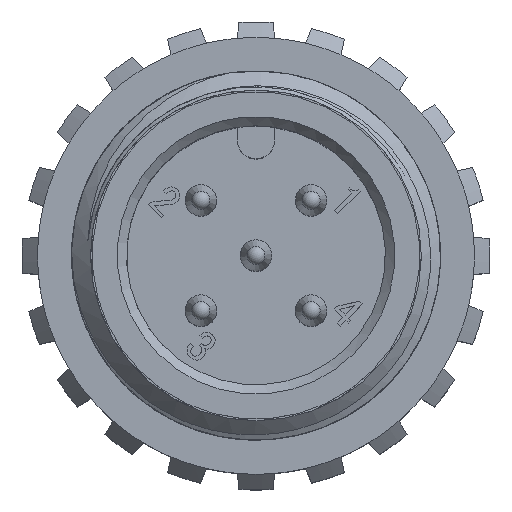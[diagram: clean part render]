
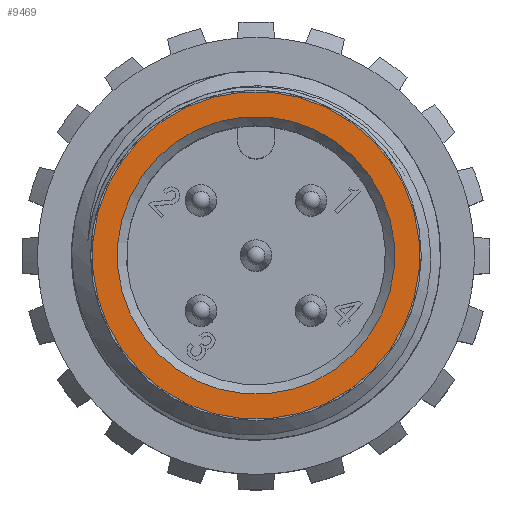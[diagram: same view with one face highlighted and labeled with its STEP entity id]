
A CAD part, top view. The second image highlights one B-rep face of the part: STEP entity #9469.
In plain terms, the highlighted planar face has unit normal (0, 0, 1).
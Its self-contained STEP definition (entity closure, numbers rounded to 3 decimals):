
#910 = VERTEX_POINT ( 'NONE', #1077 ) ;
#1077 = CARTESIAN_POINT ( 'NONE',  ( -3.147, 3.147, 0. ) ) ;
#1114 = CARTESIAN_POINT ( 'NONE',  ( 3.712, -3.712, 0. ) ) ;
#1462 = DIRECTION ( 'NONE',  ( 0., 0., -1. ) ) ;
#1609 = ORIENTED_EDGE ( 'NONE', *, *, #4238, .T. ) ;
#2271 = AXIS2_PLACEMENT_3D ( 'NONE', #3852, #10458, #6596 ) ;
#3234 = EDGE_LOOP ( 'NONE', ( #7453 ) ) ;
#3852 = CARTESIAN_POINT ( 'NONE',  ( 3.712, 3.712, 0. ) ) ;
#4095 = AXIS2_PLACEMENT_3D ( 'NONE', #4310, #1462, #4243 ) ;
#4238 = EDGE_CURVE ( 'NONE', #910, #910, #10733, .T. ) ;
#4243 = DIRECTION ( 'NONE',  ( -0.707, 0.707, 0. ) ) ;
#4310 = CARTESIAN_POINT ( 'NONE',  ( 0., 0., 0. ) ) ;
#4710 = EDGE_CURVE ( 'NONE', #11425, #11425, #8696, .T. ) ;
#4811 = PLANE ( 'NONE',  #2271 ) ;
#5029 = FACE_BOUND ( 'NONE', #9800, .T. ) ;
#6596 = DIRECTION ( 'NONE',  ( -0.707, 0.707, 0. ) ) ;
#7453 = ORIENTED_EDGE ( 'NONE', *, *, #4710, .T. ) ;
#7679 = FACE_OUTER_BOUND ( 'NONE', #3234, .T. ) ;
#7988 = DIRECTION ( 'NONE',  ( 0., 0., 1. ) ) ;
#8696 = CIRCLE ( 'NONE', #11355, 5.25 ) ;
#9469 = ADVANCED_FACE ( 'NONE', ( #5029, #7679 ), #4811, .F. ) ;
#9800 = EDGE_LOOP ( 'NONE', ( #1609 ) ) ;
#10458 = DIRECTION ( 'NONE',  ( 0., 0., -1. ) ) ;
#10733 = CIRCLE ( 'NONE', #4095, 4.45 ) ;
#10910 = DIRECTION ( 'NONE',  ( 0.707, -0.707, 0. ) ) ;
#11355 = AXIS2_PLACEMENT_3D ( 'NONE', #11842, #7988, #10910 ) ;
#11425 = VERTEX_POINT ( 'NONE', #1114 ) ;
#11842 = CARTESIAN_POINT ( 'NONE',  ( 0., 0., 0. ) ) ;
